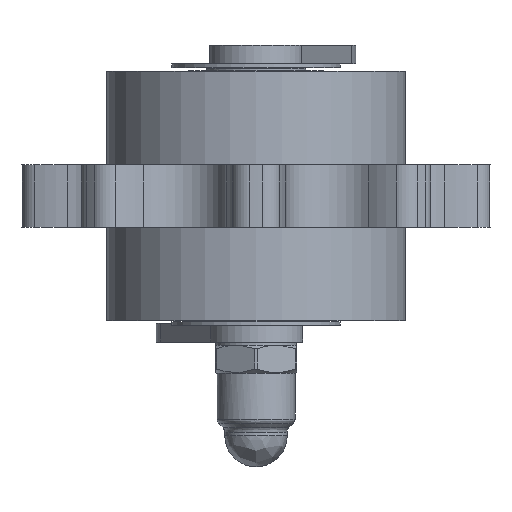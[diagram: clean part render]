
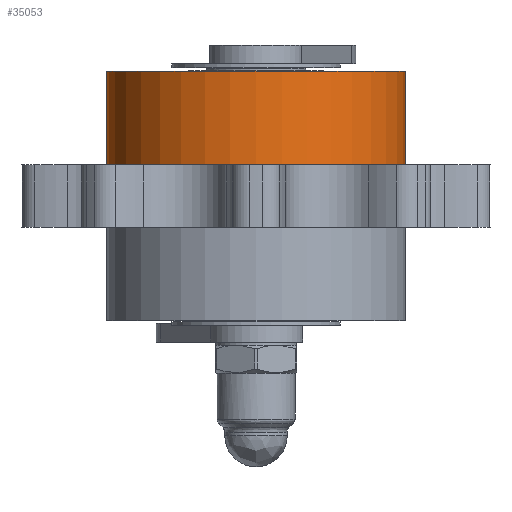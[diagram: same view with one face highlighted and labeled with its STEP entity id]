
A CAD part, left-side view. The second image highlights one B-rep face of the part: STEP entity #35053.
In plain terms, the highlighted cylindrical face has radius 24 mm (diameter 48 mm), a full revolution.
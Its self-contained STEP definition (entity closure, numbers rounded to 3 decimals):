
#171 = DIRECTION ( 'NONE',  ( 1., 0., 0. ) ) ;
#3020 = AXIS2_PLACEMENT_3D ( 'NONE', #38828, #23114, #22461 ) ;
#3722 = AXIS2_PLACEMENT_3D ( 'NONE', #13027, #26246, #171 ) ;
#4590 = ORIENTED_EDGE ( 'NONE', *, *, #23307, .T. ) ;
#7164 = ORIENTED_EDGE ( 'NONE', *, *, #18348, .T. ) ;
#11447 = CARTESIAN_POINT ( 'NONE',  ( 0., -0.7, -24. ) ) ;
#13027 = CARTESIAN_POINT ( 'NONE',  ( 0., -15.7, 0. ) ) ;
#18348 = EDGE_CURVE ( 'NONE', #37738, #37738, #25188, .T. ) ;
#22461 = DIRECTION ( 'NONE',  ( 1., 0., 0. ) ) ;
#23114 = DIRECTION ( 'NONE',  ( 0., -1., 0. ) ) ;
#23274 = CARTESIAN_POINT ( 'NONE',  ( 0., -0.7, 0. ) ) ;
#23307 = EDGE_CURVE ( 'NONE', #30783, #30783, #38035, .T. ) ;
#24145 = EDGE_LOOP ( 'NONE', ( #7164 ) ) ;
#24221 = CARTESIAN_POINT ( 'NONE',  ( 24., -15.7, 0. ) ) ;
#25188 = CIRCLE ( 'NONE', #3722, 24. ) ;
#26246 = DIRECTION ( 'NONE',  ( 0., 1., 0. ) ) ;
#26538 = DIRECTION ( 'NONE',  ( 0., -1., 0. ) ) ;
#30783 = VERTEX_POINT ( 'NONE', #11447 ) ;
#31842 = FACE_OUTER_BOUND ( 'NONE', #24145, .T. ) ;
#35053 = ADVANCED_FACE ( 'NONE', ( #31842, #42086 ), #35308, .T. ) ;
#35308 = CYLINDRICAL_SURFACE ( 'NONE', #3020, 24. ) ;
#36973 = DIRECTION ( 'NONE',  ( 0., 0., -1. ) ) ;
#37738 = VERTEX_POINT ( 'NONE', #24221 ) ;
#38035 = CIRCLE ( 'NONE', #40803, 24. ) ;
#38828 = CARTESIAN_POINT ( 'NONE',  ( 0., -0.7, 0. ) ) ;
#40803 = AXIS2_PLACEMENT_3D ( 'NONE', #23274, #26538, #36973 ) ;
#41801 = EDGE_LOOP ( 'NONE', ( #4590 ) ) ;
#42086 = FACE_OUTER_BOUND ( 'NONE', #41801, .T. ) ;
